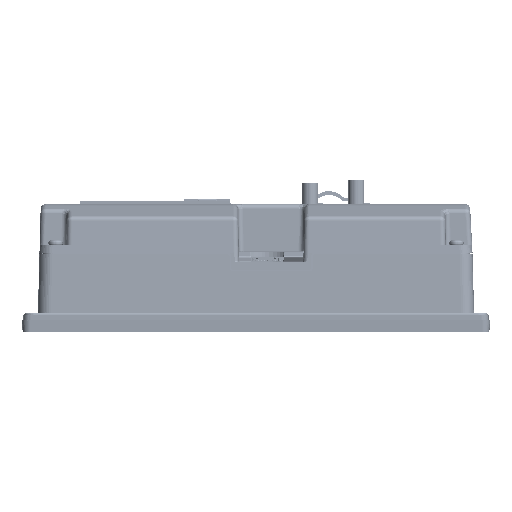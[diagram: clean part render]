
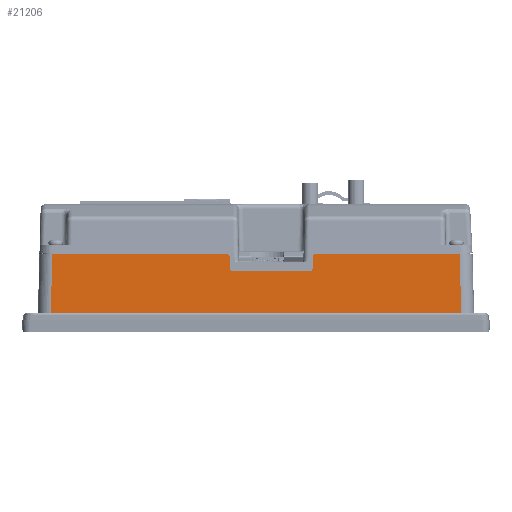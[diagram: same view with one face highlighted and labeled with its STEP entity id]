
A CAD part, left-side view. The second image highlights one B-rep face of the part: STEP entity #21206.
In plain terms, the highlighted planar face has unit normal (-1, 0, 0.026).
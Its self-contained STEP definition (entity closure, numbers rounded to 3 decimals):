
#7537=DIRECTION('',(0.,-1.,0.));
#7538=VECTOR('',#7537,159.107);
#7539=CARTESIAN_POINT('',(-127.052,79.554,6.72));
#7540=LINE('',#7539,#7538);
#7601=CARTESIAN_POINT('',(-126.464,10.25,29.17));
#7602=CARTESIAN_POINT('',(-126.455,10.25,29.503));
#7603=CARTESIAN_POINT('',(-126.444,10.502,29.918));
#7604=CARTESIAN_POINT('',(-126.438,10.917,30.17));
#7605=CARTESIAN_POINT('',(-126.438,11.25,30.17));
#7607=DIRECTION('',(-0.026,0.,-1.));
#7608=VECTOR('',#7607,4.458);
#7609=CARTESIAN_POINT('',(-126.464,10.25,29.17));
#7610=LINE('',#7609,#7608);
#7611=DIRECTION('',(0.,-1.,0.));
#7612=VECTOR('',#7611,30.18);
#7613=CARTESIAN_POINT('',(-126.607,9.25,23.714));
#7614=LINE('',#7613,#7612);
#7615=DIRECTION('',(-0.026,0.,-1.));
#7616=VECTOR('',#7615,4.458);
#7617=CARTESIAN_POINT('',(-126.464,-21.93,29.17));
#7618=LINE('',#7617,#7616);
#7619=CARTESIAN_POINT('',(-126.438,-22.93,30.17));
#7620=CARTESIAN_POINT('',(-126.438,-22.597,30.17));
#7621=CARTESIAN_POINT('',(-126.444,-22.182,
29.918));
#7622=CARTESIAN_POINT('',(-126.455,-21.93,29.503));
#7623=CARTESIAN_POINT('',(-126.464,-21.93,29.17));
#7625=DIRECTION('',(0.,-1.,0.));
#7626=VECTOR('',#7625,56.01);
#7627=CARTESIAN_POINT('',(-126.438,-22.93,30.17));
#7628=LINE('',#7627,#7626);
#7629=DIRECTION('',(-0.026,-0.026,-0.999));
#7630=VECTOR('',#7629,23.466);
#7631=CARTESIAN_POINT('',(-126.438,-78.94,30.17));
#7632=LINE('',#7631,#7630);
#7633=DIRECTION('',(-0.026,0.026,-0.999));
#7634=VECTOR('',#7633,23.466);
#7635=CARTESIAN_POINT('',(-126.438,78.94,30.17));
#7636=LINE('',#7635,#7634);
#7637=DIRECTION('',(0.,-1.,0.));
#7638=VECTOR('',#7637,67.69);
#7639=CARTESIAN_POINT('',(-126.438,78.94,30.17));
#7640=LINE('',#7639,#7638);
#8529=CARTESIAN_POINT('',(-126.581,-20.93,24.713));
#8530=DIRECTION('',(1.,0.,-0.026));
#8531=DIRECTION('',(0.,-1.,0.));
#8532=AXIS2_PLACEMENT_3D('',#8529,#8530,#8531);
#8542=CARTESIAN_POINT('',(-126.581,9.25,24.713));
#8543=DIRECTION('',(1.,0.,-0.026));
#8544=DIRECTION('',(-0.026,0.,-1.));
#8545=AXIS2_PLACEMENT_3D('',#8542,#8543,#8544);
#8951=CARTESIAN_POINT('',(-127.052,79.554,6.72));
#8952=CARTESIAN_POINT('',(-127.052,-79.554,6.72));
#8953=VERTEX_POINT('',#8951);
#8954=VERTEX_POINT('',#8952);
#8959=CARTESIAN_POINT('',(-126.438,78.94,30.17));
#8960=VERTEX_POINT('',#8959);
#8961=CARTESIAN_POINT('',(-126.438,-78.94,30.17));
#8962=VERTEX_POINT('',#8961);
#11019=CARTESIAN_POINT('',(-126.607,9.25,23.714));
#11020=VERTEX_POINT('',#11019);
#11021=CARTESIAN_POINT('',(-126.581,10.25,24.713));
#11022=VERTEX_POINT('',#11021);
#11025=CARTESIAN_POINT('',(-126.581,-21.93,24.713));
#11026=VERTEX_POINT('',#11025);
#11027=CARTESIAN_POINT('',(-126.607,-20.93,23.714));
#11028=VERTEX_POINT('',#11027);
#11037=CARTESIAN_POINT('',(-126.464,10.25,29.17));
#11039=VERTEX_POINT('',#11037);
#11041=VERTEX_POINT('',#7605);
#11048=VERTEX_POINT('',#7619);
#11049=VERTEX_POINT('',#7623);
#21176=CARTESIAN_POINT('',(-127.01,89.432,8.32));
#21177=DIRECTION('',(-1.,0.,0.026));
#21178=DIRECTION('',(0.,-1.,0.));
#21179=AXIS2_PLACEMENT_3D('',#21176,#21177,#21178);
#21180=PLANE('',#21179);
#21182=ORIENTED_EDGE('',*,*,#21181,.F.);
#21184=ORIENTED_EDGE('',*,*,#21183,.T.);
#21186=ORIENTED_EDGE('',*,*,#21185,.F.);
#21188=ORIENTED_EDGE('',*,*,#21187,.T.);
#21190=ORIENTED_EDGE('',*,*,#21189,.F.);
#21192=ORIENTED_EDGE('',*,*,#21191,.F.);
#21194=ORIENTED_EDGE('',*,*,#21193,.F.);
#21196=ORIENTED_EDGE('',*,*,#21195,.T.);
#21198=ORIENTED_EDGE('',*,*,#21197,.T.);
#21199=ORIENTED_EDGE('',*,*,#21157,.F.);
#21201=ORIENTED_EDGE('',*,*,#21200,.F.);
#21203=ORIENTED_EDGE('',*,*,#21202,.T.);
#21204=EDGE_LOOP('',(#21182,#21184,#21186,#21188,#21190,#21192,#21194,#21196,
#21198,#21199,#21201,#21203));
#21205=FACE_OUTER_BOUND('',#21204,.F.);
#21206=ADVANCED_FACE('',(#21205),#21180,.T.);
#7606=B_SPLINE_CURVE_WITH_KNOTS('',3,(#7601,#7602,#7603,#7604,#7605),
.UNSPECIFIED.,.F.,.F.,(4,1,4),(0.,0.5,1.),.UNSPECIFIED.);
#7624=B_SPLINE_CURVE_WITH_KNOTS('',3,(#7619,#7620,#7621,#7622,#7623),
.UNSPECIFIED.,.F.,.F.,(4,1,4),(0.,0.5,1.),.UNSPECIFIED.);
#8533=CIRCLE('',#8532,1.);
#8546=CIRCLE('',#8545,1.);
#21157=EDGE_CURVE('',#8953,#8954,#7540,.T.);
#21181=EDGE_CURVE('',#11039,#11041,#7606,.T.);
#21183=EDGE_CURVE('',#11039,#11022,#7610,.T.);
#21185=EDGE_CURVE('',#11020,#11022,#8546,.T.);
#21187=EDGE_CURVE('',#11020,#11028,#7614,.T.);
#21189=EDGE_CURVE('',#11026,#11028,#8533,.T.);
#21191=EDGE_CURVE('',#11049,#11026,#7618,.T.);
#21193=EDGE_CURVE('',#11048,#11049,#7624,.T.);
#21195=EDGE_CURVE('',#11048,#8962,#7628,.T.);
#21197=EDGE_CURVE('',#8962,#8954,#7632,.T.);
#21200=EDGE_CURVE('',#8960,#8953,#7636,.T.);
#21202=EDGE_CURVE('',#8960,#11041,#7640,.T.);
